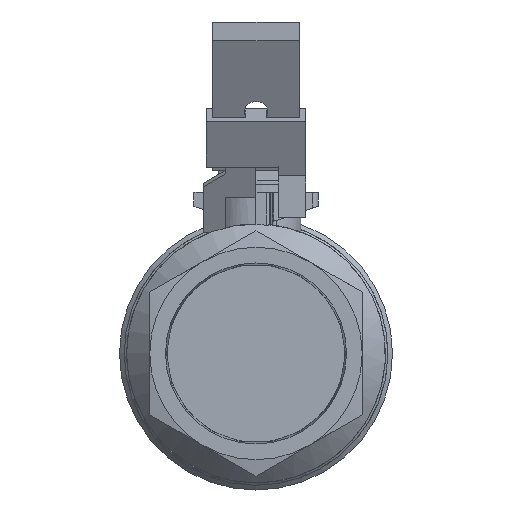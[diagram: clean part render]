
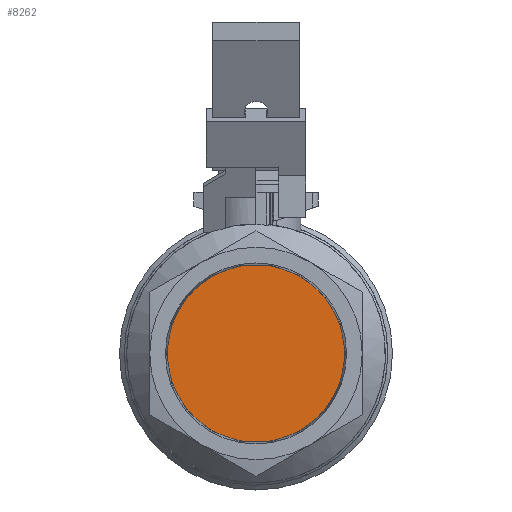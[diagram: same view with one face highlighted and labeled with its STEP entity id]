
A CAD part, left-side view. The second image highlights one B-rep face of the part: STEP entity #8262.
In plain terms, the highlighted planar face has unit normal (-1, 0, 0).
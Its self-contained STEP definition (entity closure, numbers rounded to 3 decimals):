
#8262 = ADVANCED_FACE('',(#8263),#8276,.T.);
#8263 = FACE_BOUND('',#8264,.T.);
#8264 = EDGE_LOOP('',(#8265));
#8265 = ORIENTED_EDGE('',*,*,#8266,.F.);
#8266 = EDGE_CURVE('',#8267,#8267,#8269,.T.);
#8267 = VERTEX_POINT('',#8268);
#8268 = CARTESIAN_POINT('',(0.697,1.126,0.));
#8269 = SURFACE_CURVE('',#8270,(#8275,#8291),.PCURVE_S1.);
#8270 = CIRCLE('',#8271,1.126);
#8271 = AXIS2_PLACEMENT_3D('',#8272,#8273,#8274);
#8272 = CARTESIAN_POINT('',(0.697,0.,0.));
#8273 = DIRECTION('',(1.,0.,0.));
#8274 = DIRECTION('',(-0.,1.,0.));
#8275 = PCURVE('',#8276,#8281);
#8276 = PLANE('',#8277);
#8277 = AXIS2_PLACEMENT_3D('',#8278,#8279,#8280);
#8278 = CARTESIAN_POINT('',(0.697,0.563,0.));
#8279 = DIRECTION('',(-1.,-0.,-0.));
#8280 = DIRECTION('',(-0.,1.,-0.));
#8281 = DEFINITIONAL_REPRESENTATION('',(#8282),#8290);
#8282 = ( BOUNDED_CURVE() B_SPLINE_CURVE(2,(#8283,#8284,#8285,#8286,
#8287,#8288,#8289),.UNSPECIFIED.,.T.,.F.) B_SPLINE_CURVE_WITH_KNOTS((1,2
    ,2,2,2,1),(-2.094,0.,2.094,4.189,
6.283,8.378),.UNSPECIFIED.) CURVE() 
GEOMETRIC_REPRESENTATION_ITEM() RATIONAL_B_SPLINE_CURVE((1.,0.5,1.,0.5,
1.,0.5,1.)) REPRESENTATION_ITEM('') );
#8283 = CARTESIAN_POINT('',(0.563,0.));
#8284 = CARTESIAN_POINT('',(0.563,-1.951));
#8285 = CARTESIAN_POINT('',(-1.126,-0.975));
#8286 = CARTESIAN_POINT('',(-2.816,0.));
#8287 = CARTESIAN_POINT('',(-1.126,0.975));
#8288 = CARTESIAN_POINT('',(0.563,1.951));
#8289 = CARTESIAN_POINT('',(0.563,0.));
#8290 = ( GEOMETRIC_REPRESENTATION_CONTEXT(2) 
PARAMETRIC_REPRESENTATION_CONTEXT() REPRESENTATION_CONTEXT('2D SPACE',''
  ) );
#8291 = PCURVE('',#8292,#8297);
#8292 = CONICAL_SURFACE('',#8293,1.137,0.031);
#8293 = AXIS2_PLACEMENT_3D('',#8294,#8295,#8296);
#8294 = CARTESIAN_POINT('',(73.141,0.,0.));
#8295 = DIRECTION('',(1.,0.,0.));
#8296 = DIRECTION('',(0.,-1.,0.));
#8297 = DEFINITIONAL_REPRESENTATION('',(#8298),#8302);
#8298 = LINE('',#8299,#8300);
#8299 = CARTESIAN_POINT('',(0.,-72.444));
#8300 = VECTOR('',#8301,1.);
#8301 = DIRECTION('',(1.,0.));
#8302 = ( GEOMETRIC_REPRESENTATION_CONTEXT(2) 
PARAMETRIC_REPRESENTATION_CONTEXT() REPRESENTATION_CONTEXT('2D SPACE',''
  ) );
